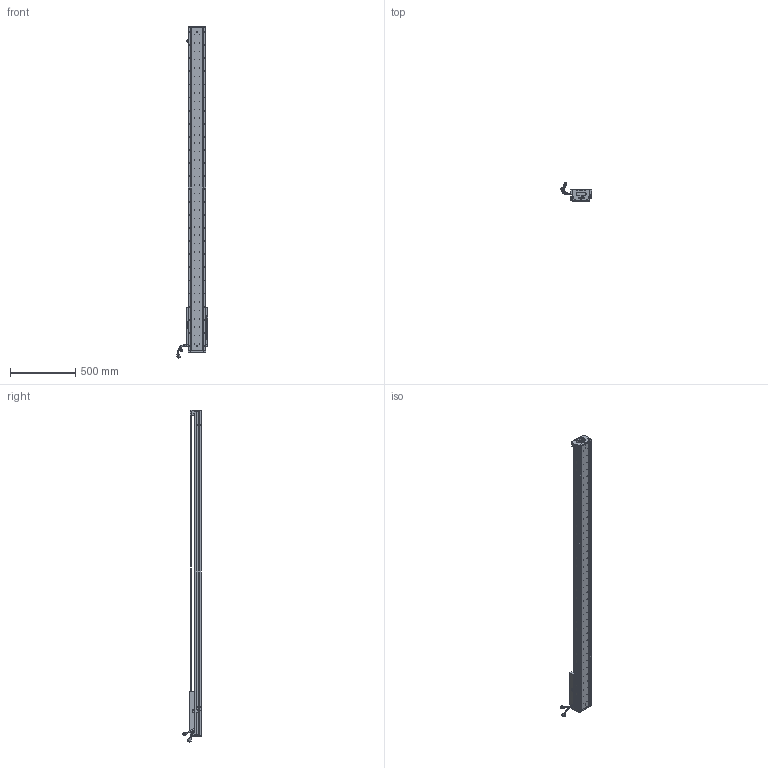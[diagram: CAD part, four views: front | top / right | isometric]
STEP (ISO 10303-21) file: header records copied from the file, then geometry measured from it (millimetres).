
FILE_DESCRIPTION (( 'STEP AP203' ), '1' );
FILE_NAME ('Z4-RY140D-1-L500-B-K.SLDASM_2100.step', '2021-05-17T08:18:34', ( '盈信电脑' ), ( '东莞市道滘镇水果街19号' ), 'SwSTEP 2.0', 'SolidWorks 2016', '' );
FILE_SCHEMA (( 'CONFIG_CONTROL_DESIGN' ));
Length unit declared in the file: millimetre
Products named in the file (36): Z-140詩湍傷裔啣; SCREW-M1.6-2; SCREW-M1.6; SCREW-M1.7; Z-RY140感应器672光电感应片; 080黍杅芛假蚾釱21遴; PSLH080_PSLF2; COVER-Part-1; SCREW-M1.6-3; COVER; PBU_SHEET; LABEL-Part-1; SCALE; 詩湍狟揤裔; SCALE-Part-1; Z4-RY140D-1-L500-B-K.SLDASM_2100; LABEL; HARNESS-Part-2; SCREW-M1.7-1; 140-Z-臏賑輸盄裔(21遴); SHIELDPLATE; Z4-RY140圉猾敕臏賑輸(21遴); HARNESS; SEAL; 覜茼ん672; 140雄赽晤鎢ん堤盄; Z4-RY140-L500詩湍100mm遵_2100; SEAL-Part-1; 榋妏寠巭燃_暯_M2_2; HARNESS-Part-1; 詩湍奻揤裔; Z4-RY140-L500直线电机模组底座_2100; SCALE-Part-2; 140蚥薯蝶輸; HOLDER0; SCREW-M1.6-1
Assembly tree (41 placements, depth 4):
  Z4-RY140D-1-L500-B-K.SLDASM_2100
    Z4-RY140-L500直线电机模组底座_2100
    Z-RY140感应器672光电感应片
    Z4-RY140圉猾敕臏賑輸(21遴)
    覜茼ん672  x3
    Z4-RY140-L500詩湍100mm遵_2100
    PSLH080_PSLF2
      SCALE
        SCALE-Part-1
        SCALE-Part-2
      HARNESS
        HARNESS-Part-1
        HARNESS-Part-2
      LABEL
        LABEL-Part-1
      COVER
        COVER-Part-1
      SEAL
        SEAL-Part-1
      榋妏寠巭燃_暯_M2_2
      SHIELDPLATE
      SCREW-M1.7
      SCREW-M1.7-1
      PBU_SHEET
      SCREW-M1.6
      SCREW-M1.6-1
      SCREW-M1.6-2
      SCREW-M1.6-3
      HOLDER0
    080黍杅芛假蚾釱21遴
    140-Z-臏賑輸盄裔(21遴)
    Z-140詩湍傷裔啣  x2
    詩湍狟揤裔  x2
    詩湍奻揤裔  x2
    140蚥薯蝶輸  x2
    140雄赽晤鎢ん堤盄
Bounding box: 239.84 x 143.88 x 2540.87 mm (x, y, z)
Volume: 8388568.7 mm3; surface area: 2164574.2 mm2
Topology: 36 solids, 36 shells, 4062 faces, 11032 edges, 6987 vertices
Faces by surface type: cylinder 2186, plane 1356, cone 398, torus 69, bspline 53
Entity records: 128440 total; most frequent: CARTESIAN_POINT 36117, ORIENTED_EDGE 18992, DIRECTION 17644, EDGE_CURVE 9496, AXIS2_PLACEMENT_3D 6562, VERTEX_POINT 6155, VECTOR 4520, LINE 4520
